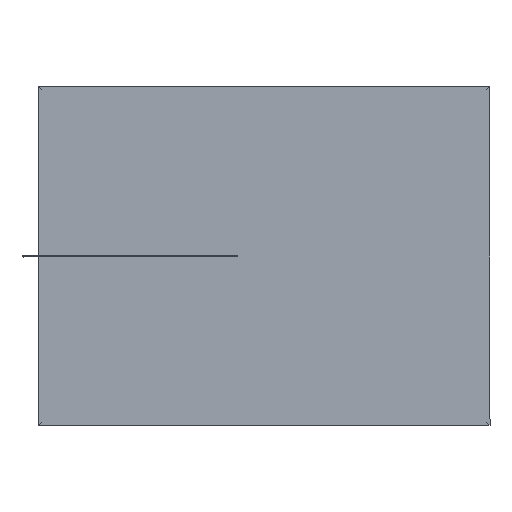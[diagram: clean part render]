
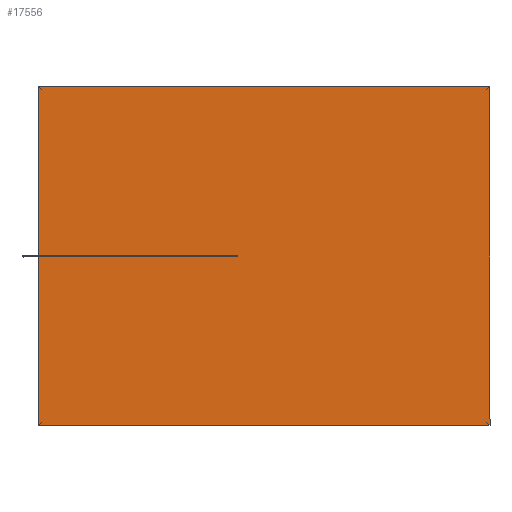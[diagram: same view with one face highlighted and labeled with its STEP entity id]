
A CAD part, front view. The second image highlights one B-rep face of the part: STEP entity #17556.
In plain terms, the highlighted planar face has unit normal (0, -1, 0).
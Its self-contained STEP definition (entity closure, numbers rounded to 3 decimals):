
#799=PLANE('',#18519);
#1373=FACE_OUTER_BOUND('',#2308,.T.);
#2308=EDGE_LOOP('',(#11333,#11334,#11335,#11336));
#3412=LINE('',#24391,#4949);
#3413=LINE('',#24393,#4950);
#3414=LINE('',#24395,#4951);
#3415=LINE('',#24396,#4952);
#4949=VECTOR('',#19973,10.);
#4950=VECTOR('',#19974,10.);
#4951=VECTOR('',#19975,10.);
#4952=VECTOR('',#19976,10.);
#7026=VERTEX_POINT('',#24389);
#7027=VERTEX_POINT('',#24390);
#7028=VERTEX_POINT('',#24392);
#7029=VERTEX_POINT('',#24394);
#8792=EDGE_CURVE('',#7026,#7027,#3412,.T.);
#8793=EDGE_CURVE('',#7028,#7026,#3413,.T.);
#8794=EDGE_CURVE('',#7029,#7028,#3414,.T.);
#8795=EDGE_CURVE('',#7027,#7029,#3415,.T.);
#11333=ORIENTED_EDGE('',*,*,#8792,.F.);
#11334=ORIENTED_EDGE('',*,*,#8793,.F.);
#11335=ORIENTED_EDGE('',*,*,#8794,.F.);
#11336=ORIENTED_EDGE('',*,*,#8795,.F.);
#17556=ADVANCED_FACE('',(#1373),#799,.T.);
#18519=AXIS2_PLACEMENT_3D('',#24388,#19971,#19972);
#19971=DIRECTION('center_axis',(0.,-1.,0.));
#19972=DIRECTION('ref_axis',(0.,0.,-1.));
#19973=DIRECTION('',(1.,0.,0.));
#19974=DIRECTION('',(0.,0.,1.));
#19975=DIRECTION('',(-1.,0.,0.));
#19976=DIRECTION('',(0.,0.,-1.));
#24388=CARTESIAN_POINT('Origin',(0.,-703.662,
21.5));
#24389=CARTESIAN_POINT('',(-148.535,-703.662,132.865));
#24390=CARTESIAN_POINT('',(148.535,-703.662,132.865));
#24391=CARTESIAN_POINT('',(148.535,-703.662,132.865));
#24392=CARTESIAN_POINT('',(-148.535,-703.662,-89.865));
#24393=CARTESIAN_POINT('',(-148.535,-703.662,132.865));
#24394=CARTESIAN_POINT('',(148.535,-703.662,-89.865));
#24395=CARTESIAN_POINT('',(-148.535,-703.662,-89.865));
#24396=CARTESIAN_POINT('',(148.535,-703.662,-89.865));
